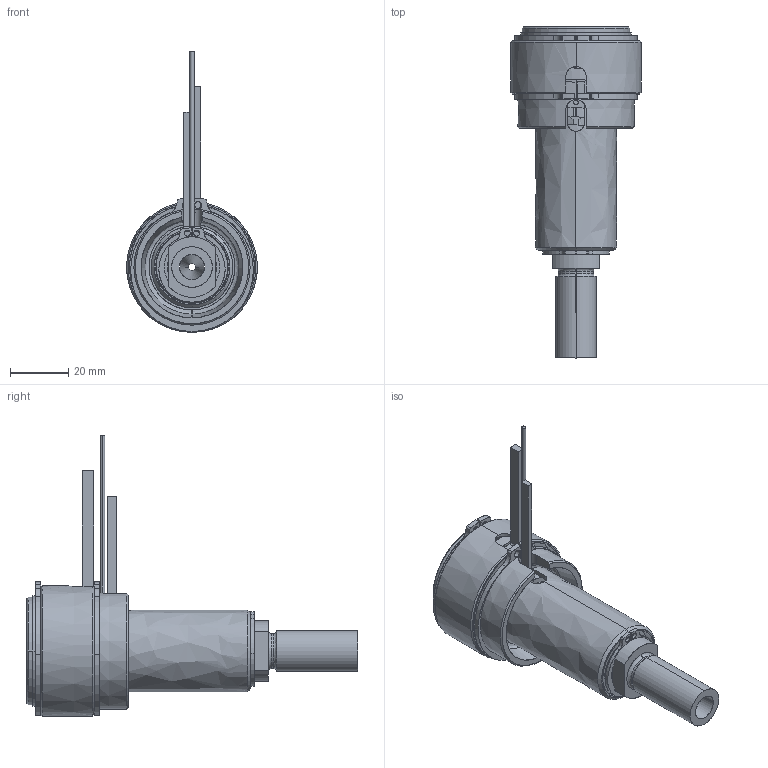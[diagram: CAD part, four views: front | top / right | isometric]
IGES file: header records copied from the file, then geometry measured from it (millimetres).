
Start section: SolidWorks IGES file using analytic representation for surfaces
Global section: file name: C:\Documents and Settings\ws-20\Desktop\TEM\UGBE4501-M-A-P-5 [Ød-2.5 P-25 ØC-10].IGS; native system: SolidWorks 2012; preprocessor: SolidWorks 2012; author: ws-20; date: 120412.154231; units: millimetre
Bounding box: 45 x 114.25 x 96.65 mm (x, y, z)
Surface area: 39245 mm2 (no closed solid volume)
Topology: 0 solids, 0 shells, 164 faces, 3141 edges, 3141 vertices
Faces by surface type: revolution 98, bspline 66
